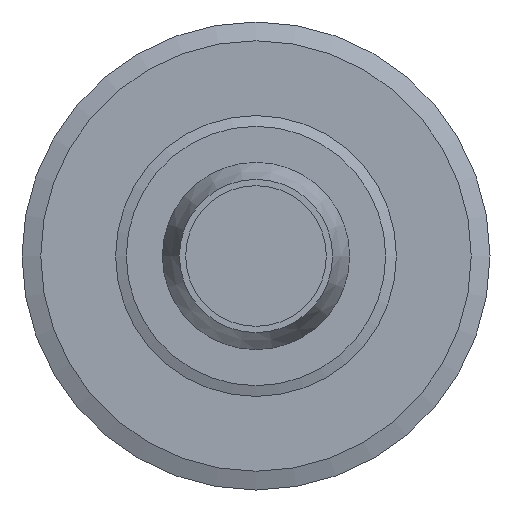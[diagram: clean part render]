
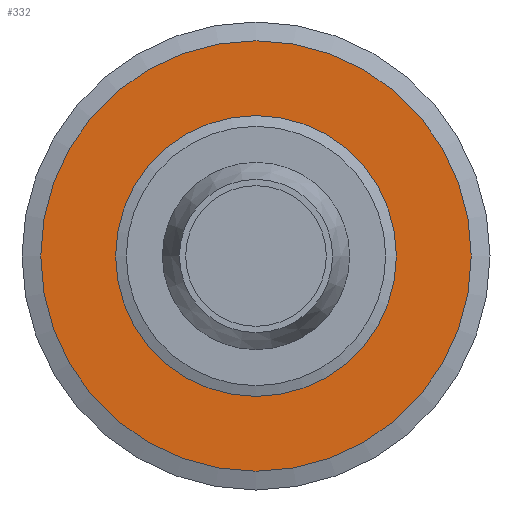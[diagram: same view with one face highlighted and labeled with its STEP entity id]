
A CAD part, front view. The second image highlights one B-rep face of the part: STEP entity #332.
In plain terms, the highlighted planar face has unit normal (0, -1, 0).
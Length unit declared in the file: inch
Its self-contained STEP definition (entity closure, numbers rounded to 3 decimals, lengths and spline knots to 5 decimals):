
#92=PLANE('',#437);
#114=FACE_OUTER_BOUND('',#138,.T.);
#138=EDGE_LOOP('',(#300));
#182=CIRCLE('',#434,27.59596);
#204=VERTEX_POINT('',#627);
#235=EDGE_CURVE('',#204,#204,#182,.T.);
#300=ORIENTED_EDGE('',*,*,#235,.F.);
#332=ADVANCED_FACE('',(#114),#92,.F.);
#434=AXIS2_PLACEMENT_3D('',#629,#535,#536);
#437=AXIS2_PLACEMENT_3D('',#634,#542,#543);
#535=DIRECTION('center_axis',(0.,1.,0.));
#536=DIRECTION('ref_axis',(-1.,0.,0.));
#542=DIRECTION('center_axis',(0.,1.,0.));
#543=DIRECTION('ref_axis',(0.,0.,1.));
#627=CARTESIAN_POINT('',(27.59596,28.,0.));
#629=CARTESIAN_POINT('Origin',(0.,28.,0.));
#634=CARTESIAN_POINT('Origin',(0.,28.,0.));
